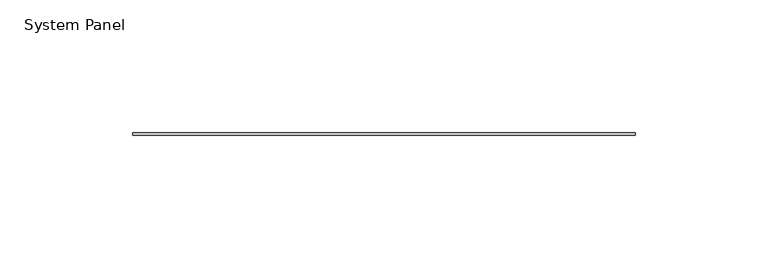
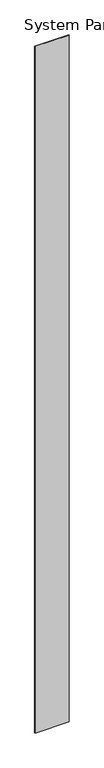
"""IFC4 building model written with IfcOpenShell, lengths in millimetres: plate geometry, System Panel : Stratco_Hiland_Tray."""

from ifc_helpers import new_model, si_unit, origin, origin_with_axes, place, context, project, spatial, polyline, outline, extrude, source, transform, mapped, element, save


def system_panel_987935d8(model_context):
    return source(origin(), model_context, "Body", "SweptSolid", [
        extrude(outline(polyline([(94.7485582, 2.5), (-94.7485582, 2.5), (-94.7485582, 3.5), (94.7485582, 3.5), (94.7485582, 2.5)])), origin_with_axes(), (0.0, 0.0, 1.0), 4000.0),
    ])


if __name__ == "__main__":
    model = new_model("IFC4")
    model_context = context("Model", 3, world=origin())
    ifc_project = project(units=[si_unit("LENGTHUNIT", "METRE", prefix="MILLI")], contexts=[model_context])
    site = spatial("IfcSite", under=ifc_project)
    building = spatial("IfcBuilding", under=site)
    placement = place(None, origin())
    system_panel_shape = system_panel_987935d8(model_context)
    element("IfcPlate", 1, ObjectType="System Panel : Stratco_Hiland_Tray", at=placement, inside=building, context=model_context, shape_type="MappedRepresentation", body=[
        mapped(system_panel_shape, transform((0.0, 0.0, 0.0), x_axis=(1.0, 0.0, 0.0), y_axis=(0.0, 1.0, 0.0), z_axis=(0.0, 0.0, 1.0))),
    ])
    save(model, "model.ifc")
